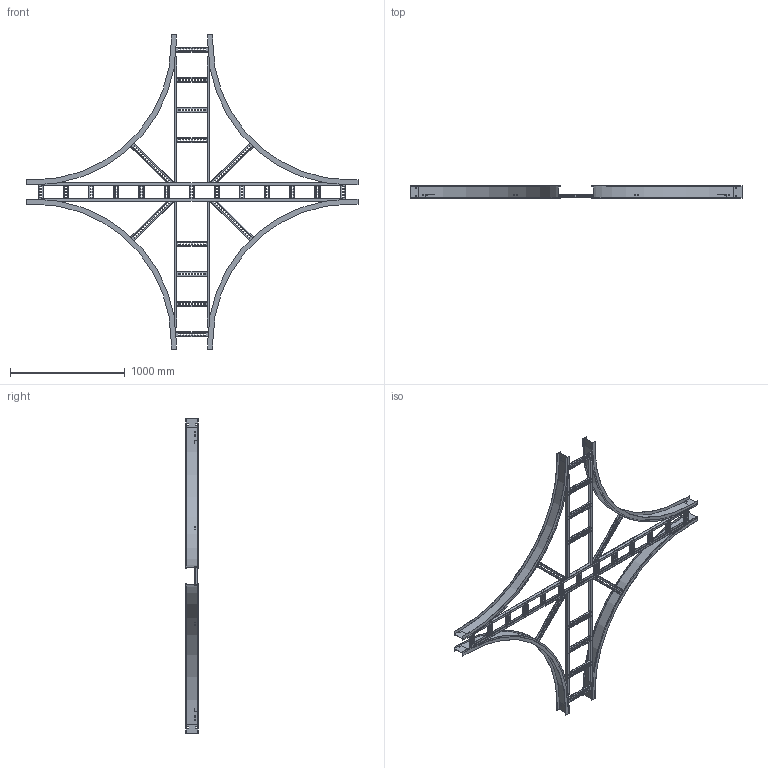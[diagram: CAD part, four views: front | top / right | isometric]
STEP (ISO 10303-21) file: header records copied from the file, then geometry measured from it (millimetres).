
FILE_DESCRIPTION((''),'2;1');
FILE_NAME('AHF40612LEX48_ASM','2010-01-27T',('erouzier'),(''),'PRO/ENGINEER BY PARAMETRIC TECHNOLOGY CORPORATION, 2008510','PRO/ENGINEER BY PARAMETRIC TECHNOLOGY CORPORATION, 2008510','');
FILE_SCHEMA(('CONFIG_CONTROL_DESIGN'));
Length unit declared in the file: inch
Products named in the file (26): CDS001810-4-90-48-I; CDS002159L6-P_AF13; CDS002159L6-P_AF14; CDS002159L6-P_AF15; CDS002159L6-P_AF16; CDS002159L6-P_AF22; CDS002159L6-P_AF24; CDS002159L6-P_AF17; CDS002159L6-P_AF18; CDS002159L6-P_AF19; CDS002159L6-P_AF21; CDS002159L6-P_AF23; CDS002159L6-P_AF25; CDS002159L6-P_AF20; CDS000495_GEN_AF18; CDS000495_GEN_AF19; CDS000495_GEN_AF22; CDS000495_GEN_AF23; CDS000495_GEN_AF20; CDS000495_GEN_AF21; CDS002159L24-P_AF6; CDS002159L24-P_AF7; CDS002159L24-P_AF4; CDS002159L24-P_AF5; CDS002159L12-P; AHF40612LEX48_ASM
Assembly tree (35 placements, depth 2):
  AHF40612LEX48_ASM
    CDS001810-4-90-48-I  x4
    CDS002159L6-P_AF13
    CDS002159L6-P_AF14
    CDS002159L6-P_AF15
    CDS002159L6-P_AF16
    CDS002159L6-P_AF22
    CDS002159L6-P_AF24
    CDS002159L6-P_AF17
    CDS002159L6-P_AF18
    CDS002159L6-P_AF19
    CDS002159L6-P_AF21
    CDS002159L6-P_AF23
    CDS002159L6-P_AF25
    CDS002159L6-P_AF20
    CDS000495_GEN_AF18
    CDS000495_GEN_AF19
    CDS000495_GEN_AF22
    CDS000495_GEN_AF23
    CDS000495_GEN_AF20
    CDS000495_GEN_AF21
    CDS002159L24-P_AF6
    CDS002159L24-P_AF7
    CDS002159L24-P_AF4
    CDS002159L24-P_AF5
    CDS002159L12-P  x8
Bounding box: 2899.41 x 106.05 x 2747.01 mm (x, y, z)
Volume: 5524605.1 mm3; surface area: 5935900.6 mm2
Topology: 35 solids, 35 shells, 2610 faces, 7620 edges, 5080 vertices
Faces by surface type: plane 1499, cylinder 1111
Entity records: 58295 total; most frequent: CARTESIAN_POINT 10407, ORIENTED_EDGE 9984, DIRECTION 9926, EDGE_CURVE 4992, VECTOR 3520, LINE 3520, VERTEX_POINT 3328, AXIS2_PLACEMENT_3D 3203
